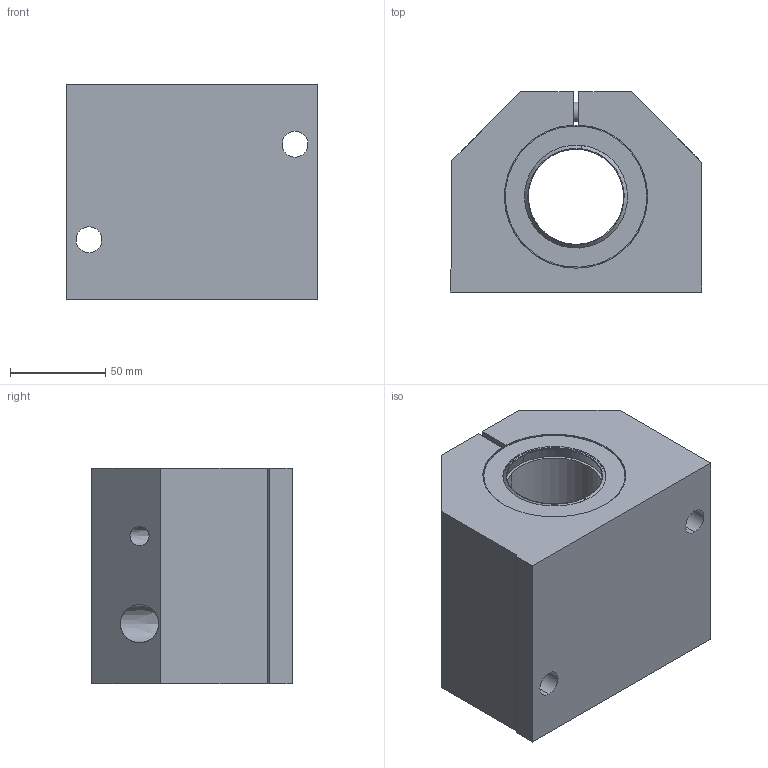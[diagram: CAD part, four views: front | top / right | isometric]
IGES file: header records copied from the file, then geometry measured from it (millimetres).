
Start section: 3D InterOp IGES (Version 21 0 1), Spatial Corp. Copyright (c) 1999-2007.
Global section: file name: SLS-50.igs; native system: Spatial Corp.; preprocessor: 3D InterOp GENERIC/IGES 3.0; author: Noname; organization: Noname; date: 20220309.161016; units: millimetre
Bounding box: 132 x 105 x 113 mm (x, y, z)
Surface area: 113468.9 mm2 (no closed solid volume)
Topology: 0 solids, 0 shells, 136 faces, 654 edges, 648 vertices
Faces by surface type: revolution 95, extrusion 41
